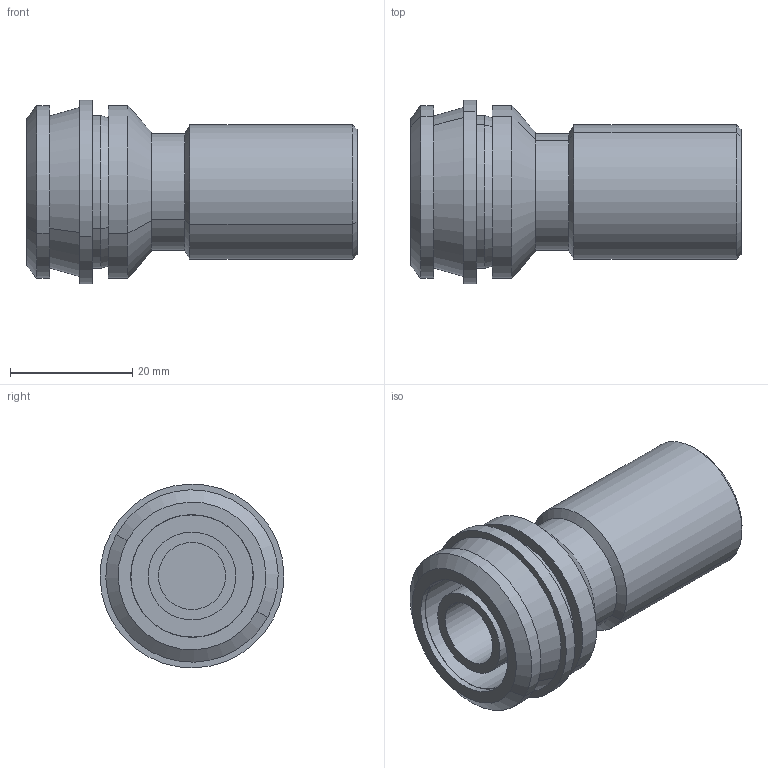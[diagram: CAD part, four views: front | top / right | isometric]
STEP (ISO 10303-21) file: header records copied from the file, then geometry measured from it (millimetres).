
FILE_DESCRIPTION(('STEP AP214'),'1');
FILE_NAME('pim0004070.stp','2017-02-01T15:20:19',('cad-pim'),('TransMagic, Inc.'),'TMR12sp0','TransMagic R12',' ');
FILE_SCHEMA(('AUTOMOTIVE_DESIGN'));
Length unit declared in the file: millimetre
Products named in the file (1): pim0004070 (1)
Bounding box: 54 x 30.07 x 30.07 mm (x, y, z)
Volume: 19888.8 mm3; surface area: 7724.2 mm2
Topology: 1 solids, 1 shells, 43 faces, 84 edges, 52 vertices
Faces by surface type: bspline 43
Entity records: 2282 total; most frequent: CARTESIAN_POINT 501, STYLED_ITEM 172, PRESENTATION_STYLE_ASSIGNMENT 172, COLOUR_RGB 172, ORIENTED_EDGE 168, DIRECTION 138, EDGE_CURVE 84, CURVE_STYLE 80
